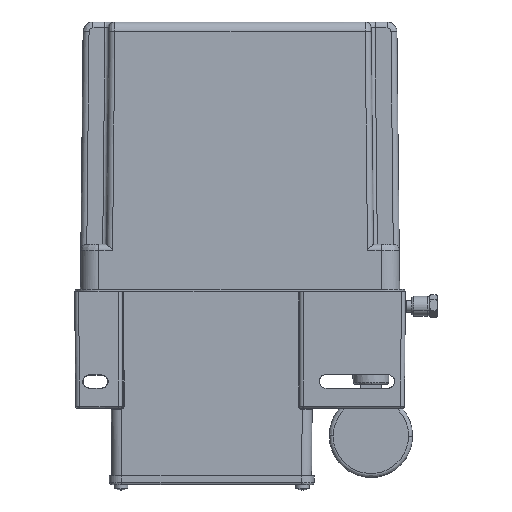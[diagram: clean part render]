
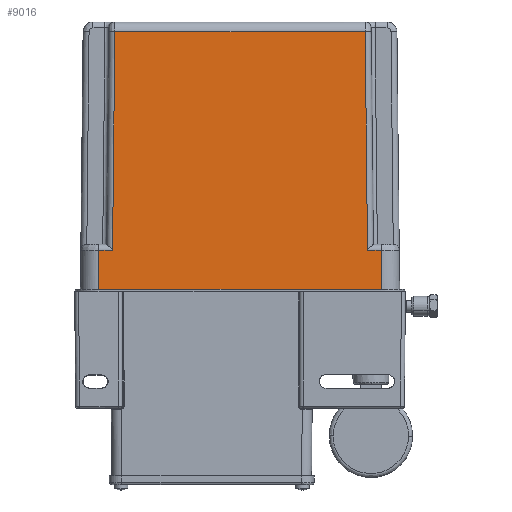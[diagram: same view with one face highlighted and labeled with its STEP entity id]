
A CAD part, front view. The second image highlights one B-rep face of the part: STEP entity #9016.
In plain terms, the highlighted planar face has unit normal (0, -1, 0.011).
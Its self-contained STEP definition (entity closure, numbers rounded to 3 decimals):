
#750 = DIRECTION ( 'NONE',  ( -0.01, -0.01, -1. ) ) ;
#1888 = CARTESIAN_POINT ( 'NONE',  ( 80.086, -36.293, -16.41 ) ) ;
#2537 = CARTESIAN_POINT ( 'NONE',  ( 76.231, -36.086, 3.322 ) ) ;
#2596 = VERTEX_POINT ( 'NONE', #12043 ) ;
#3741 = CARTESIAN_POINT ( 'NONE',  ( 214.898, -34.931, 113.643 ) ) ;
#4828 = CARTESIAN_POINT ( 'NONE',  ( 76.231, -36.086, 3.322 ) ) ;
#5411 = LINE ( 'NONE', #36405, #15187 ) ;
#5535 = DIRECTION ( 'NONE',  ( -1., 0., 0. ) ) ;
#5678 = DIRECTION ( 'NONE',  ( -1., 0., 0. ) ) ;
#5844 = DIRECTION ( 'NONE',  ( 0.01, -0.01, -1. ) ) ;
#7842 = DIRECTION ( 'NONE',  ( 0., -0.01, -1. ) ) ;
#7946 = DIRECTION ( 'NONE',  ( -1., 0., 0. ) ) ;
#8408 = LINE ( 'NONE', #2537, #15352 ) ;
#8668 = VECTOR ( 'NONE', #750, 1000. ) ;
#8776 = VERTEX_POINT ( 'NONE', #24523 ) ;
#9016 = ADVANCED_FACE ( 'NONE', ( #34468 ), #16260, .T. ) ;
#9067 = DIRECTION ( 'NONE',  ( 1., 0., 0. ) ) ;
#9634 = EDGE_CURVE ( 'NONE', #19315, #2596, #16435, .T. ) ;
#10613 = LINE ( 'NONE', #4828, #32790 ) ;
#11085 = EDGE_LOOP ( 'NONE', ( #30744, #33852, #15704, #11681, #16340, #31403, #18276, #28878 ) ) ;
#11270 = EDGE_CURVE ( 'NONE', #33426, #2596, #34322, .T. ) ;
#11681 = ORIENTED_EDGE ( 'NONE', *, *, #11270, .T. ) ;
#12043 = CARTESIAN_POINT ( 'NONE',  ( 223.287, -36.293, -16.41 ) ) ;
#12427 = EDGE_CURVE ( 'NONE', #19315, #17426, #8408, .T. ) ;
#12698 = VECTOR ( 'NONE', #5844, 1000. ) ;
#12808 = LINE ( 'NONE', #24291, #8668 ) ;
#14157 = VERTEX_POINT ( 'NONE', #3741 ) ;
#14444 = LINE ( 'NONE', #20565, #36035 ) ;
#15187 = VECTOR ( 'NONE', #36638, 1000. ) ;
#15352 = VECTOR ( 'NONE', #5678, 1000. ) ;
#15388 = CARTESIAN_POINT ( 'NONE',  ( 151.687, -36.293, -16.41 ) ) ;
#15704 = ORIENTED_EDGE ( 'NONE', *, *, #20695, .T. ) ;
#16260 = PLANE ( 'NONE',  #27964 ) ;
#16340 = ORIENTED_EDGE ( 'NONE', *, *, #9634, .F. ) ;
#16435 = LINE ( 'NONE', #38174, #12698 ) ;
#16551 = VERTEX_POINT ( 'NONE', #30688 ) ;
#16771 = DIRECTION ( 'NONE',  ( 0., -1., 0.01 ) ) ;
#17426 = VERTEX_POINT ( 'NONE', #36760 ) ;
#17835 = EDGE_CURVE ( 'NONE', #16551, #35563, #34060, .T. ) ;
#18276 = ORIENTED_EDGE ( 'NONE', *, *, #37717, .T. ) ;
#19315 = VERTEX_POINT ( 'NONE', #19992 ) ;
#19992 = CARTESIAN_POINT ( 'NONE',  ( 223.08, -36.086, 3.322 ) ) ;
#20565 = CARTESIAN_POINT ( 'NONE',  ( 76.231, -34.931, 113.643 ) ) ;
#20695 = EDGE_CURVE ( 'NONE', #8776, #33426, #12808, .T. ) ;
#22385 = VECTOR ( 'NONE', #9067, 1000. ) ;
#23955 = VECTOR ( 'NONE', #30543, 1000. ) ;
#24291 = CARTESIAN_POINT ( 'NONE',  ( 80.293, -36.086, 3.322 ) ) ;
#24523 = CARTESIAN_POINT ( 'NONE',  ( 80.293, -36.086, 3.322 ) ) ;
#24633 = CARTESIAN_POINT ( 'NONE',  ( 88.475, -34.931, 113.643 ) ) ;
#25877 = CARTESIAN_POINT ( 'NONE',  ( 76.231, -36.293, -16.41 ) ) ;
#27055 = EDGE_CURVE ( 'NONE', #35563, #8776, #10613, .T. ) ;
#27964 = AXIS2_PLACEMENT_3D ( 'NONE', #25877, #16771, #7842 ) ;
#28244 = EDGE_CURVE ( 'NONE', #14157, #16551, #14444, .T. ) ;
#28878 = ORIENTED_EDGE ( 'NONE', *, *, #28244, .T. ) ;
#29188 = CARTESIAN_POINT ( 'NONE',  ( 87.32, -36.086, 3.322 ) ) ;
#30543 = DIRECTION ( 'NONE',  ( -0.01, -0.01, -1. ) ) ;
#30688 = CARTESIAN_POINT ( 'NONE',  ( 88.475, -34.931, 113.643 ) ) ;
#30744 = ORIENTED_EDGE ( 'NONE', *, *, #17835, .T. ) ;
#31403 = ORIENTED_EDGE ( 'NONE', *, *, #12427, .T. ) ;
#32790 = VECTOR ( 'NONE', #7946, 1000. ) ;
#33426 = VERTEX_POINT ( 'NONE', #1888 ) ;
#33852 = ORIENTED_EDGE ( 'NONE', *, *, #27055, .T. ) ;
#34060 = LINE ( 'NONE', #24633, #23955 ) ;
#34322 = LINE ( 'NONE', #15388, #22385 ) ;
#34468 = FACE_OUTER_BOUND ( 'NONE', #11085, .T. ) ;
#35563 = VERTEX_POINT ( 'NONE', #29188 ) ;
#36035 = VECTOR ( 'NONE', #5535, 1000. ) ;
#36405 = CARTESIAN_POINT ( 'NONE',  ( 216.053, -36.086, 3.322 ) ) ;
#36638 = DIRECTION ( 'NONE',  ( -0.01, 0.01, 1. ) ) ;
#36760 = CARTESIAN_POINT ( 'NONE',  ( 216.053, -36.086, 3.322 ) ) ;
#37717 = EDGE_CURVE ( 'NONE', #17426, #14157, #5411, .T. ) ;
#38174 = CARTESIAN_POINT ( 'NONE',  ( 221.87, -34.876, 118.909 ) ) ;
